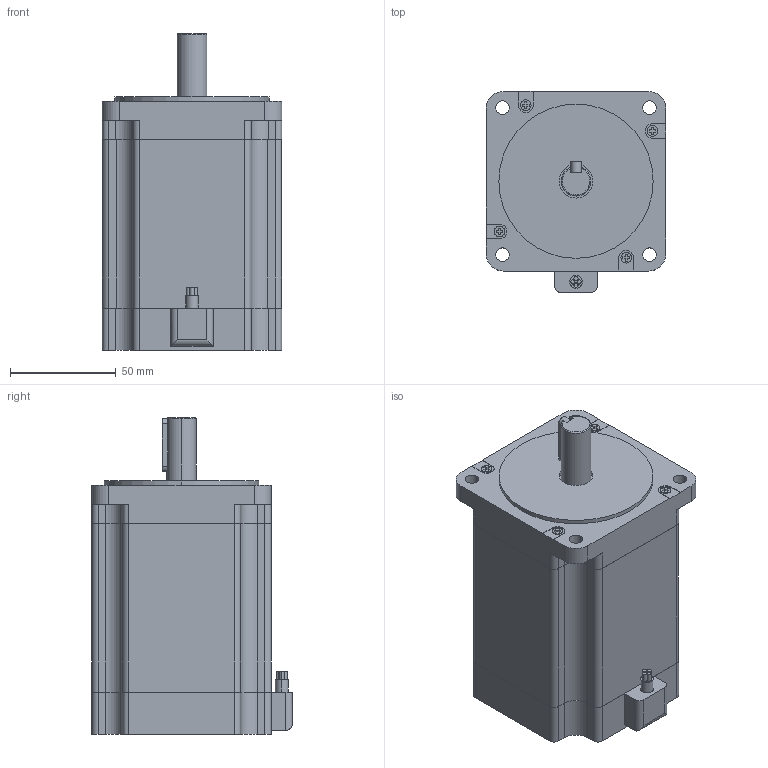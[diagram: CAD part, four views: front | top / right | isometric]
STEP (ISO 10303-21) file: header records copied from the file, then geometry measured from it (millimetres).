
FILE_DESCRIPTION (( 'STEP AP203' ), '1' );
FILE_NAME ('STC-86D60-04118.STEP', '2019-10-25T03:17:55', ( 'China' ), ( 'Home' ), 'SwSTEP 2.0', 'SolidWorks 2016', '' );
FILE_SCHEMA (( 'CONFIG_CONTROL_DESIGN' ));
Length unit declared in the file: millimetre
Products named in the file (1): STC-86D60-04118
Bounding box: 85 x 95 x 150 mm (x, y, z)
Volume: 777087.5 mm3; surface area: 55989.4 mm2
Topology: 2 solids, 2 shells, 222 faces, 593 edges, 394 vertices
Faces by surface type: plane 132, cylinder 87, bspline 3
Entity records: 7109 total; most frequent: CARTESIAN_POINT 1327, DIRECTION 1195, ORIENTED_EDGE 1186, EDGE_CURVE 593, LINE 413, VECTOR 413, VERTEX_POINT 394, AXIS2_PLACEMENT_3D 391
